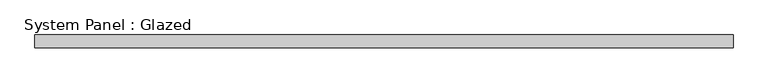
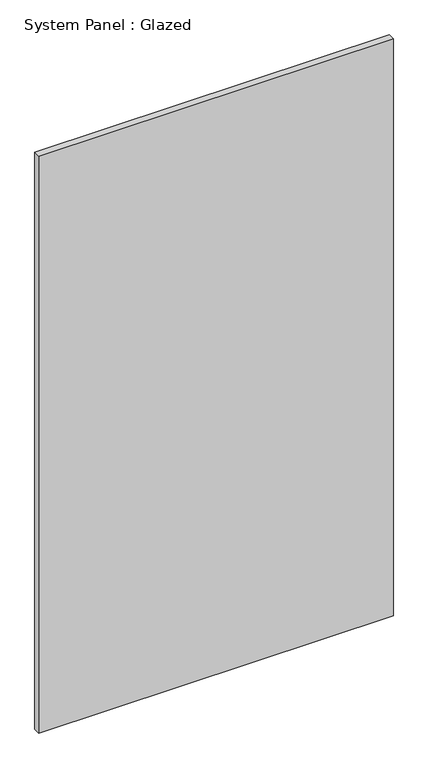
"""IFC4 building model written with IfcOpenShell, lengths in millimetres: plate geometry, System Panel : Glazed."""

from ifc_helpers import new_model, si_unit, origin, origin_with_axes, place, context, project, spatial, polyline, outline, extrude, source, transform, mapped, element, save


def system_panel_glazed_cd6fe77c(model_context):
    return source(origin(), model_context, "Body", "SweptSolid", [
        extrude(outline(polyline([(688.0142442, -49.5), (-688.0142442, -49.5), (-688.0142442, -24.5), (688.0142442, -24.5), (688.0142442, -49.5)])), origin_with_axes(), (0.0, 0.0, 1.0), 2365.0),
    ])


if __name__ == "__main__":
    model = new_model("IFC4")
    model_context = context("Model", 3, world=origin())
    ifc_project = project(units=[si_unit("LENGTHUNIT", "METRE", prefix="MILLI")], contexts=[model_context])
    site = spatial("IfcSite", under=ifc_project)
    building = spatial("IfcBuilding", under=site)
    placement = place(None, origin())
    system_panel_glazed_shape = system_panel_glazed_cd6fe77c(model_context)
    element("IfcPlate", 1, ObjectType="System Panel : Glazed", at=placement, inside=building, context=model_context, shape_type="MappedRepresentation", body=[
        mapped(system_panel_glazed_shape, transform((0.0, 0.0, 0.0), x_axis=(1.0, 0.0, 0.0), y_axis=(0.0, 1.0, 0.0), z_axis=(0.0, 0.0, 1.0))),
    ])
    save(model, "model.ifc")
